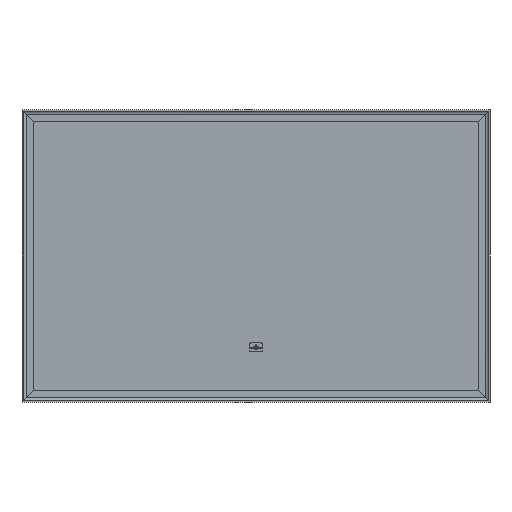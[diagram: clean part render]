
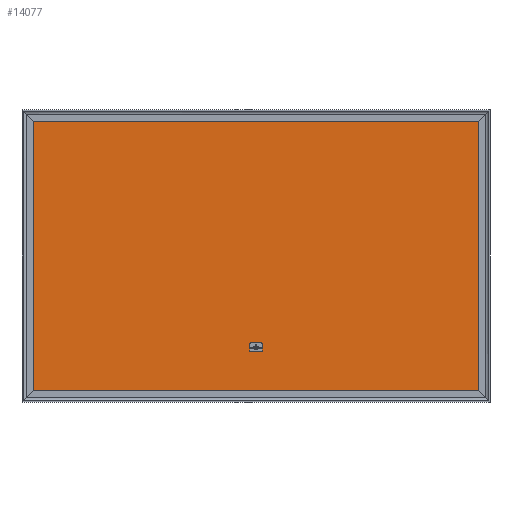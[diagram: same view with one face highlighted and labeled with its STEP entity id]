
A CAD part, front view. The second image highlights one B-rep face of the part: STEP entity #14077.
In plain terms, the highlighted planar face has unit normal (0, -1, 0).
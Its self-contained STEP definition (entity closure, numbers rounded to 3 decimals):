
#226=LINE('',#20076,#1801);
#234=LINE('',#20091,#1809);
#485=LINE('',#20832,#2060);
#490=LINE('',#20852,#2065);
#507=LINE('',#20912,#2082);
#817=LINE('',#21657,#2392);
#820=LINE('',#21664,#2395);
#821=LINE('',#21668,#2396);
#1801=VECTOR('',#16061,691.);
#1809=VECTOR('',#16073,691.);
#2060=VECTOR('',#16742,15.086);
#2065=VECTOR('',#16771,1142.);
#2082=VECTOR('',#16840,23.571);
#2392=VECTOR('',#17472,15.086);
#2395=VECTOR('',#17481,23.571);
#2396=VECTOR('',#17488,1142.);
#3525=PLANE('',#15083);
#3910=FACE_BOUND('',#5199,.T.);
#4361=FACE_OUTER_BOUND('',#5198,.T.);
#5198=EDGE_LOOP('',(#11008,#11009,#11010,#11011));
#5199=EDGE_LOOP('',(#11012,#11013,#11014,#11015,#11016,#11017,#11018,#11019));
#5905=CIRCLE('',#14876,4.714);
#5907=CIRCLE('',#14880,4.714);
#5951=CIRCLE('',#15076,4.714);
#5952=CIRCLE('',#15079,4.714);
#6271=VERTEX_POINT('',#20072);
#6273=VERTEX_POINT('',#20075);
#6276=VERTEX_POINT('',#20085);
#6278=VERTEX_POINT('',#20089);
#6515=VERTEX_POINT('',#20822);
#6516=VERTEX_POINT('',#20823);
#6519=VERTEX_POINT('',#20831);
#6521=VERTEX_POINT('',#20837);
#6539=VERTEX_POINT('',#20911);
#6772=VERTEX_POINT('',#21652);
#6773=VERTEX_POINT('',#21656);
#6774=VERTEX_POINT('',#21660);
#7664=EDGE_CURVE('',#6271,#6273,#226,.T.);
#7672=EDGE_CURVE('',#6278,#6276,#234,.T.);
#8013=EDGE_CURVE('',#6515,#6516,#5905,.T.);
#8017=EDGE_CURVE('',#6519,#6515,#485,.T.);
#8020=EDGE_CURVE('',#6521,#6519,#5907,.T.);
#8024=EDGE_CURVE('',#6273,#6278,#490,.T.);
#8053=EDGE_CURVE('',#6539,#6521,#507,.T.);
#8398=EDGE_CURVE('',#6772,#6539,#5951,.T.);
#8400=EDGE_CURVE('',#6773,#6772,#817,.T.);
#8402=EDGE_CURVE('',#6774,#6773,#5952,.T.);
#8404=EDGE_CURVE('',#6516,#6774,#820,.T.);
#8405=EDGE_CURVE('',#6276,#6271,#821,.T.);
#11008=ORIENTED_EDGE('',*,*,#8405,.F.);
#11009=ORIENTED_EDGE('',*,*,#7672,.F.);
#11010=ORIENTED_EDGE('',*,*,#8024,.F.);
#11011=ORIENTED_EDGE('',*,*,#7664,.F.);
#11012=ORIENTED_EDGE('',*,*,#8053,.T.);
#11013=ORIENTED_EDGE('',*,*,#8020,.T.);
#11014=ORIENTED_EDGE('',*,*,#8017,.T.);
#11015=ORIENTED_EDGE('',*,*,#8013,.T.);
#11016=ORIENTED_EDGE('',*,*,#8404,.T.);
#11017=ORIENTED_EDGE('',*,*,#8402,.T.);
#11018=ORIENTED_EDGE('',*,*,#8400,.T.);
#11019=ORIENTED_EDGE('',*,*,#8398,.T.);
#14077=ADVANCED_FACE('',(#4361,#3910),#3525,.F.);
#14876=AXIS2_PLACEMENT_3D('',#20824,#16734,#16735);
#14880=AXIS2_PLACEMENT_3D('',#20838,#16747,#16748);
#15076=AXIS2_PLACEMENT_3D('',#21653,#17467,#17468);
#15079=AXIS2_PLACEMENT_3D('',#21661,#17476,#17477);
#15083=AXIS2_PLACEMENT_3D('',#21667,#17486,#17487);
#16061=DIRECTION('',(0.,0.,-1.));
#16073=DIRECTION('',(0.,0.,1.));
#16734=DIRECTION('center_axis',(0.,1.,0.));
#16735=DIRECTION('ref_axis',(0.,0.,-1.));
#16742=DIRECTION('',(0.,0.,-1.));
#16747=DIRECTION('center_axis',(0.,1.,0.));
#16748=DIRECTION('ref_axis',(1.,0.,0.));
#16771=DIRECTION('',(-1.,0.,0.));
#16840=DIRECTION('',(1.,0.,0.));
#17467=DIRECTION('center_axis',(0.,1.,0.));
#17468=DIRECTION('ref_axis',(0.,0.,1.));
#17472=DIRECTION('',(0.,0.,1.));
#17476=DIRECTION('center_axis',(0.,1.,0.));
#17477=DIRECTION('ref_axis',(-1.,0.,0.));
#17481=DIRECTION('',(-1.,0.,0.));
#17486=DIRECTION('center_axis',(0.,1.,0.));
#17487=DIRECTION('ref_axis',(-1.,0.,0.));
#17488=DIRECTION('',(1.,0.,0.));
#20072=CARTESIAN_POINT('',(571.,5.75,720.5));
#20075=CARTESIAN_POINT('',(571.,5.75,29.5));
#20076=CARTESIAN_POINT('',(571.,5.75,548.));
#20085=CARTESIAN_POINT('',(-571.,5.75,720.5));
#20089=CARTESIAN_POINT('',(-571.,5.75,29.5));
#20091=CARTESIAN_POINT('',(-571.,5.75,202.));
#20822=CARTESIAN_POINT('',(16.5,5.75,133.714));
#20823=CARTESIAN_POINT('',(11.786,5.75,129.));
#20824=CARTESIAN_POINT('Origin',(11.786,5.75,133.714));
#20831=CARTESIAN_POINT('',(16.5,5.75,148.8));
#20832=CARTESIAN_POINT('',(16.5,5.75,261.9));
#20837=CARTESIAN_POINT('',(11.786,5.75,153.514));
#20838=CARTESIAN_POINT('Origin',(11.786,5.75,148.8));
#20852=CARTESIAN_POINT('',(385.75,5.75,29.5));
#20911=CARTESIAN_POINT('',(-11.786,5.75,153.514));
#20912=CARTESIAN_POINT('',(-5.893,5.75,153.514));
#21652=CARTESIAN_POINT('',(-16.5,5.75,148.8));
#21653=CARTESIAN_POINT('Origin',(-11.786,5.75,148.8));
#21656=CARTESIAN_POINT('',(-16.5,5.75,133.714));
#21657=CARTESIAN_POINT('',(-16.5,5.75,254.357));
#21660=CARTESIAN_POINT('',(-11.786,5.75,129.));
#21661=CARTESIAN_POINT('Origin',(-11.786,5.75,133.714));
#21664=CARTESIAN_POINT('',(5.893,5.75,129.));
#21667=CARTESIAN_POINT('Origin',(0.,5.75,
375.));
#21668=CARTESIAN_POINT('',(14.25,5.75,720.5));
